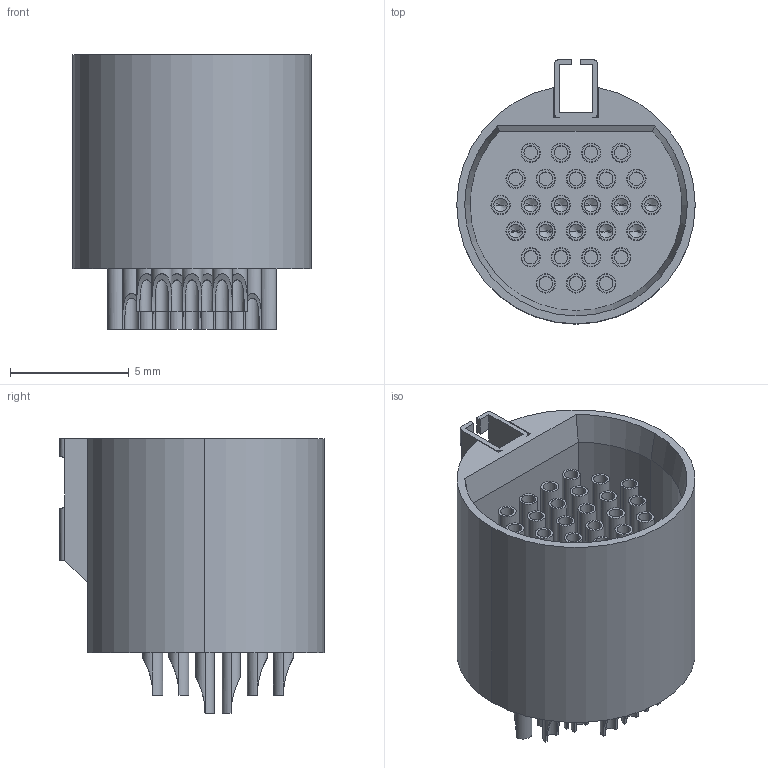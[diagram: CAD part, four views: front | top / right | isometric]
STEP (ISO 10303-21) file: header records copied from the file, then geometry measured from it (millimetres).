
FILE_DESCRIPTION (( 'STEP AP214' ), '1' );
FILE_NAME ('A22030-001 REV E.STEP', '2011-07-20T14:31:33', ( 'IT' ), ( '' ), 'SwSTEP 2.0', 'SolidWorks 2010', '' );
FILE_SCHEMA (( 'AUTOMOTIVE_DESIGN' ));
Length unit declared in the file: inch
Products named in the file (1): A22030-001
Bounding box: 10.03 x 11.11 x 11.56 mm (x, y, z)
Volume: 427.7 mm3; surface area: 1472.6 mm2
Topology: 1 solids, 28 shells, 870 faces, 2018 edges, 1268 vertices
Faces by surface type: cylinder 487, plane 319, cone 47, bspline 17
Entity records: 28767 total; most frequent: CARTESIAN_POINT 8738, DIRECTION 4293, ORIENTED_EDGE 3948, EDGE_CURVE 1974, AXIS2_PLACEMENT_3D 1627, VERTEX_POINT 1268, VECTOR 1039, LINE 1039
